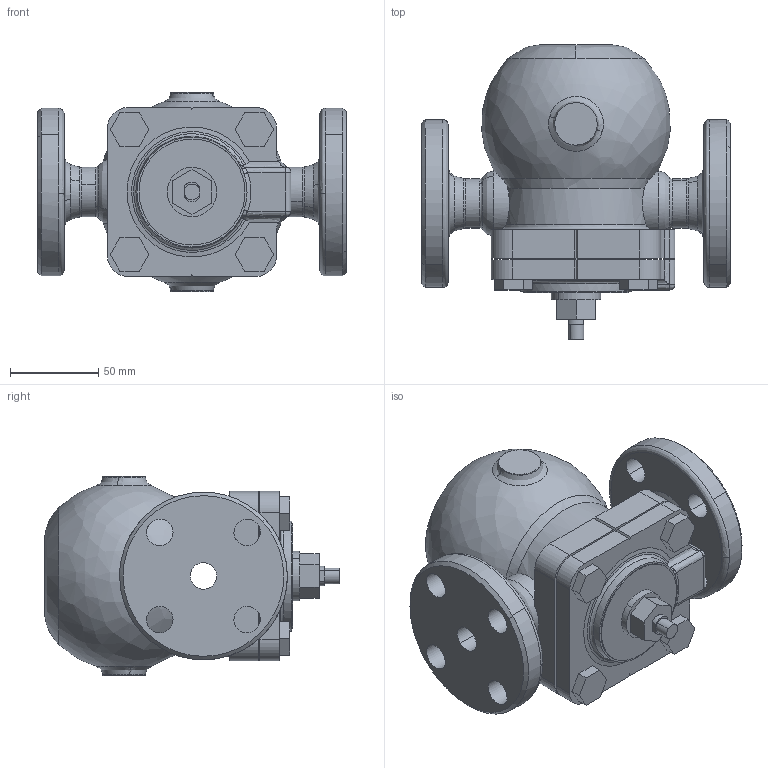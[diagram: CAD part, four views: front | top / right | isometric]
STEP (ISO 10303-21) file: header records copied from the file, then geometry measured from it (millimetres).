
FILE_DESCRIPTION((''),'2;1');
FILE_NAME('','2019-08-30T15:01:03',(''),(''),'','CADfix','');
FILE_SCHEMA(('AUTOMOTIVE_DESIGN { 1 0 10303 214 1 1 1 1 }'));
Length unit declared in the file: millimetre
Bounding box: 175 x 167 x 113 mm (x, y, z)
Volume: 1228795.4 mm3; surface area: 120984.6 mm2
Topology: 1 solids, 1 shells, 210 faces, 732 edges, 539 vertices
Faces by surface type: bspline 210
Entity records: 11334 total; most frequent: CARTESIAN_POINT 7141, ORIENTED_EDGE 1464, EDGE_CURVE 732, VERTEX_POINT 539, B_SPLINE_CURVE_WITH_KNOTS 369, QUASI_UNIFORM_CURVE 284, EDGE_LOOP 243, FACE_OUTER_BOUND 210
